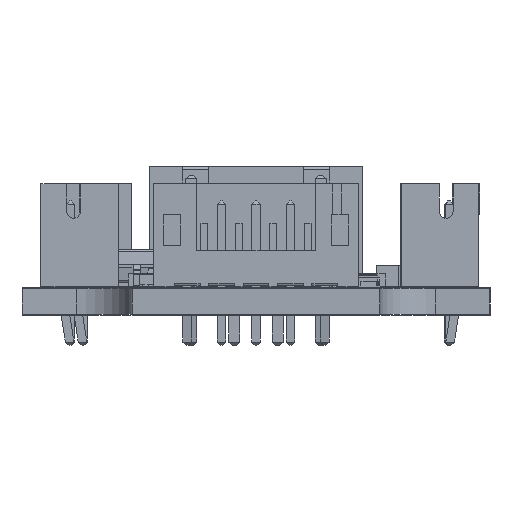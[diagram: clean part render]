
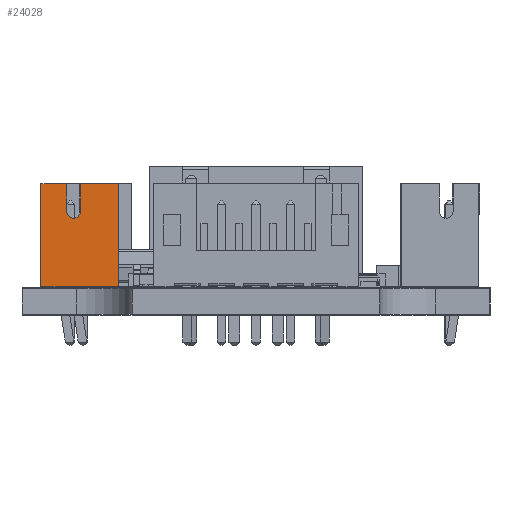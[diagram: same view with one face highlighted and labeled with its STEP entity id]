
A CAD part, left-side view. The second image highlights one B-rep face of the part: STEP entity #24028.
In plain terms, the highlighted planar face has unit normal (-1, 0, 0).
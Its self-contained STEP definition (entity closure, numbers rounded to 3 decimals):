
#22848 = VERTEX_POINT('',#22849);
#22849 = CARTESIAN_POINT('',(-1.95,-2.8,0.));
#22857 = EDGE_CURVE('',#22848,#22858,#22860,.T.);
#22858 = VERTEX_POINT('',#22859);
#22859 = CARTESIAN_POINT('',(-1.95,-2.8,6.));
#22860 = LINE('',#22861,#22862);
#22861 = CARTESIAN_POINT('',(-1.95,-2.8,0.));
#22862 = VECTOR('',#22863,1.);
#22863 = DIRECTION('',(0.,0.,1.));
#23170 = VERTEX_POINT('',#23171);
#23171 = CARTESIAN_POINT('',(-1.95,1.7,6.));
#23177 = EDGE_CURVE('',#23178,#23170,#23180,.T.);
#23178 = VERTEX_POINT('',#23179);
#23179 = CARTESIAN_POINT('',(-1.95,1.7,0.));
#23180 = LINE('',#23181,#23182);
#23181 = CARTESIAN_POINT('',(-1.95,1.7,0.));
#23182 = VECTOR('',#23183,1.);
#23183 = DIRECTION('',(0.,0.,1.));
#23518 = VERTEX_POINT('',#23519);
#23519 = CARTESIAN_POINT('',(-1.95,-0.6,6.));
#23525 = EDGE_CURVE('',#23518,#22858,#23526,.T.);
#23526 = LINE('',#23527,#23528);
#23527 = CARTESIAN_POINT('',(-1.95,1.7,6.));
#23528 = VECTOR('',#23529,1.);
#23529 = DIRECTION('',(0.,-1.,0.));
#23547 = EDGE_CURVE('',#23178,#22848,#23548,.T.);
#23548 = LINE('',#23549,#23550);
#23549 = CARTESIAN_POINT('',(-1.95,1.7,0.));
#23550 = VECTOR('',#23551,1.);
#23551 = DIRECTION('',(0.,-1.,0.));
#24028 = ADVANCED_FACE('',(#24029),#24066,.F.);
#24029 = FACE_BOUND('',#24030,.F.);
#24030 = EDGE_LOOP('',(#24031,#24032,#24033,#24041,#24049,#24058,#24064,
    #24065));
#24031 = ORIENTED_EDGE('',*,*,#23547,.F.);
#24032 = ORIENTED_EDGE('',*,*,#23177,.T.);
#24033 = ORIENTED_EDGE('',*,*,#24034,.T.);
#24034 = EDGE_CURVE('',#23170,#24035,#24037,.T.);
#24035 = VERTEX_POINT('',#24036);
#24036 = CARTESIAN_POINT('',(-1.95,0.2,6.));
#24037 = LINE('',#24038,#24039);
#24038 = CARTESIAN_POINT('',(-1.95,1.7,6.));
#24039 = VECTOR('',#24040,1.);
#24040 = DIRECTION('',(0.,-1.,0.));
#24041 = ORIENTED_EDGE('',*,*,#24042,.T.);
#24042 = EDGE_CURVE('',#24035,#24043,#24045,.T.);
#24043 = VERTEX_POINT('',#24044);
#24044 = CARTESIAN_POINT('',(-1.95,0.2,4.4));
#24045 = LINE('',#24046,#24047);
#24046 = CARTESIAN_POINT('',(-1.95,0.2,3.));
#24047 = VECTOR('',#24048,1.);
#24048 = DIRECTION('',(-0.,0.,-1.));
#24049 = ORIENTED_EDGE('',*,*,#24050,.F.);
#24050 = EDGE_CURVE('',#24051,#24043,#24053,.T.);
#24051 = VERTEX_POINT('',#24052);
#24052 = CARTESIAN_POINT('',(-1.95,-0.6,4.4));
#24053 = CIRCLE('',#24054,0.4);
#24054 = AXIS2_PLACEMENT_3D('',#24055,#24056,#24057);
#24055 = CARTESIAN_POINT('',(-1.95,-0.2,4.4));
#24056 = DIRECTION('',(1.,0.,0.));
#24057 = DIRECTION('',(0.,1.,0.));
#24058 = ORIENTED_EDGE('',*,*,#24059,.T.);
#24059 = EDGE_CURVE('',#24051,#23518,#24060,.T.);
#24060 = LINE('',#24061,#24062);
#24061 = CARTESIAN_POINT('',(-1.95,-0.6,2.2));
#24062 = VECTOR('',#24063,1.);
#24063 = DIRECTION('',(0.,0.,1.));
#24064 = ORIENTED_EDGE('',*,*,#23525,.T.);
#24065 = ORIENTED_EDGE('',*,*,#22857,.F.);
#24066 = PLANE('',#24067);
#24067 = AXIS2_PLACEMENT_3D('',#24068,#24069,#24070);
#24068 = CARTESIAN_POINT('',(-1.95,1.7,0.));
#24069 = DIRECTION('',(1.,0.,0.));
#24070 = DIRECTION('',(0.,-1.,0.));
